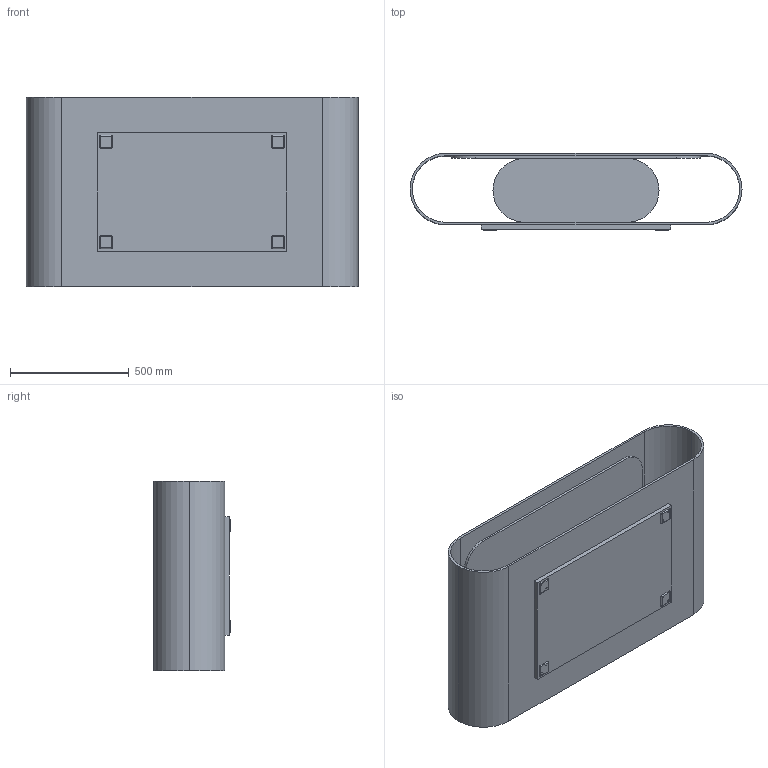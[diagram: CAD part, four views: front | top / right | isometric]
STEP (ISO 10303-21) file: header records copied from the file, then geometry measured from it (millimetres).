
FILE_DESCRIPTION (( 'STEP AP214' ), '1' );
FILE_NAME ('Tavolino_800x1400_ASSIEME.STEP', '2026-05-04T10:59:57', ( '' ), ( '' ), 'SwSTEP 2.0', 'SolidWorks 2025', '' );
FILE_SCHEMA (( 'AUTOMOTIVE_DESIGN' ));
Length unit declared in the file: millimetre
Products named in the file (6): Tavolino_ZOCCOLO_800 x 1400; Tavolino_VETRO_80 x140; Tavolino_STRUTTURA_800 x 1400; PIEDINO_IPEA; Tavolino_INTERNO; Tavolino_800x1400_ASSIEME
Assembly tree (8 placements, depth 2):
  Tavolino_800x1400_ASSIEME
    Tavolino_STRUTTURA_800 x 1400
    Tavolino_ZOCCOLO_800 x 1400
    PIEDINO_IPEA  x4
    Tavolino_INTERNO
    Tavolino_VETRO_80 x140
Bounding box: 1400 x 324 x 800 mm (x, y, z)
Volume: 41402126.5 mm3; surface area: 7668401.7 mm2
Topology: 8 solids, 8 shells, 331 faces, 929 edges, 566 vertices
Faces by surface type: cylinder 161, sphere 100, plane 54, torus 16
Entity records: 3975 total; most frequent: CARTESIAN_POINT 743, DIRECTION 710, ORIENTED_EDGE 594, EDGE_CURVE 297, AXIS2_PLACEMENT_3D 295, VERTEX_POINT 192, CIRCLE 157, EDGE_LOOP 141
